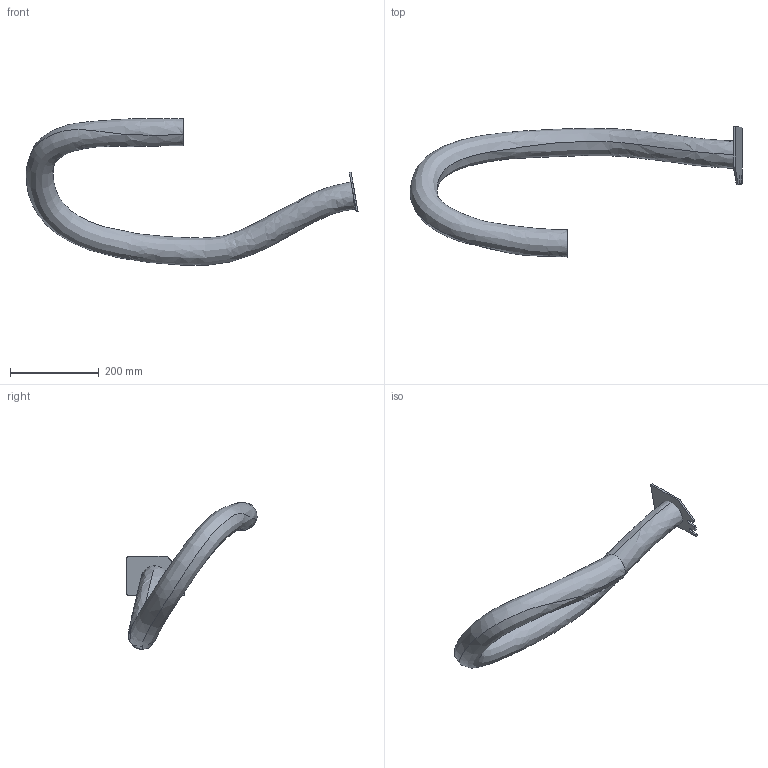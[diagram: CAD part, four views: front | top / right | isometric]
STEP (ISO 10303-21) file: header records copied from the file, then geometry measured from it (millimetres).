
FILE_DESCRIPTION (( 'STEP AP203' ), '1' );
FILE_NAME ('IRB8700-SW6_800-350_IRC5_rev00_LINK3_CABLE.STEP', '2015-06-05T09:03:33', ( 'ABB' ), ( 'ABB' ), 'SwSTEP 2.0', 'SolidWorks 2014', '' );
FILE_SCHEMA (( 'CONFIG_CONTROL_DESIGN' ));
Length unit declared in the file: millimetre
Products named in the file (1): IRB8700-SW6_800-350_IRC5_rev00_LINK3_CABLE
Bounding box: 750.2 x 294.11 x 332.14 mm (x, y, z)
Volume: 3789527.9 mm3; surface area: 270977.6 mm2
Topology: 2 solids, 2 shells, 30 faces, 78 edges, 52 vertices
Faces by surface type: plane 15, cylinder 13, bspline 2
Entity records: 1778 total; most frequent: CARTESIAN_POINT 950, DIRECTION 160, ORIENTED_EDGE 156, EDGE_CURVE 78, AXIS2_PLACEMENT_3D 57, VERTEX_POINT 52, VECTOR 46, LINE 46
